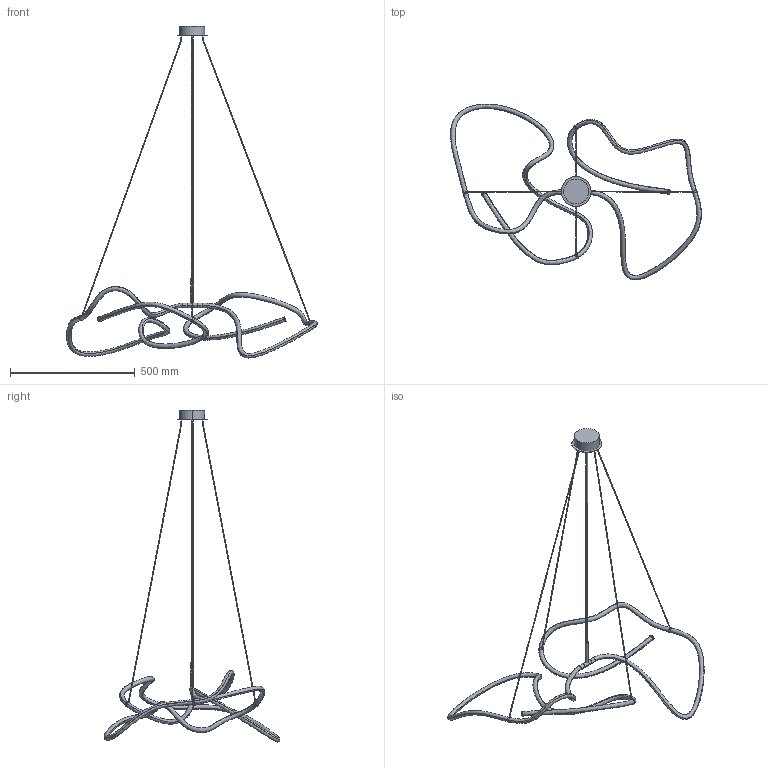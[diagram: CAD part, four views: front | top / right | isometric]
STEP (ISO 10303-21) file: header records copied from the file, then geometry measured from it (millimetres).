
FILE_DESCRIPTION(/* description */ (''),/* implementation_level */ '2;1');
FILE_NAME(/* name */ 'Ghost Chandelier Metal Mini',/* time_stamp */ '2024-02-21T11:20:32+01:00',/* author */ (''),/* organization */ (''),/* preprocessor_version */ 'ST-DEVELOPER v16.5',/* originating_system */ 'Rhino 7.36',/* authorisation */ '');
FILE_SCHEMA (('CONFIG_CONTROL_DESIGN'));
Length unit declared in the file: millimetre
Products named in the file (1): Document
Bounding box: 1004.46 x 704.24 x 1329.39 mm (x, y, z)
Volume: 466479.5 mm3; surface area: 420134.9 mm2
Topology: 25 solids, 29 shells, 104 faces, 174 edges, 130 vertices
Faces by surface type: bspline 104
Entity records: 14715 total; most frequent: CARTESIAN_POINT 12548, ORIENTED_EDGE 316, PCURVE 316, DEFINITIONAL_REPRESENTATION 316, B_SPLINE_CURVE_WITH_KNOTS 250, SURFACE_CURVE 166, EDGE_CURVE 166, VERTEX_POINT 116
